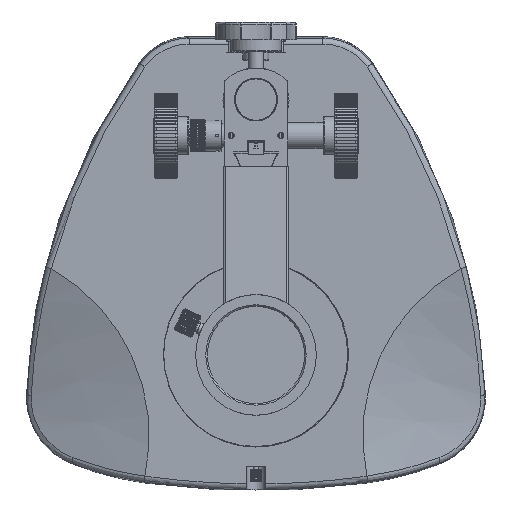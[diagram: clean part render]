
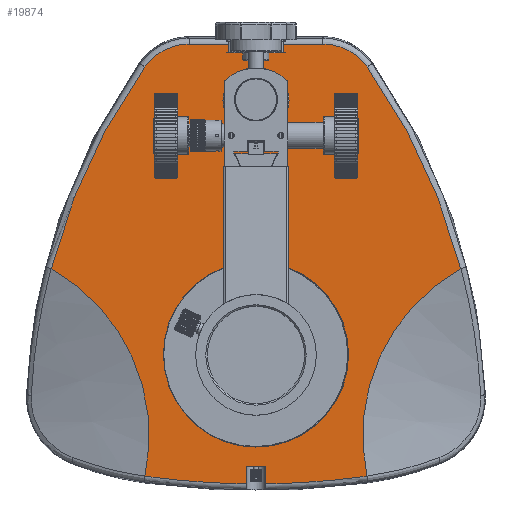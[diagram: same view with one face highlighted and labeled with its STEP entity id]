
A CAD part, top view. The second image highlights one B-rep face of the part: STEP entity #19874.
In plain terms, the highlighted planar face has unit normal (0, 0, 1).
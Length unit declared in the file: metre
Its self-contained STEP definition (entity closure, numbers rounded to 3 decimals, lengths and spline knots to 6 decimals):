
#19874=ADVANCED_FACE('103:3423',(#45202,#45203,#45204),#45205,.T.);
#19994=EDGE_CURVE('103:4329',#45398,#45395,#45399,.T.);
#20002=EDGE_CURVE('103:4317',#45407,#45395,#45410,.T.);
#20018=EDGE_CURVE('103:4338',#45422,#45429,#45432,.T.);
#20300=EDGE_CURVE('103:4296',#45839,#45839,#45840,.T.);
#20302=EDGE_CURVE('103:4323',#45842,#45398,#45843,.T.);
#20458=EDGE_CURVE('103:4008',#46055,#46058,#46059,.T.);
#20462=EDGE_CURVE('103:4002',#45842,#46063,#46064,.T.);
#20468=EDGE_CURVE('103:4332',#46070,#46071,#46072,.T.);
#20494=EDGE_CURVE('103:4269',#46104,#46105,#46106,.T.);
#20502=EDGE_CURVE('103:4335',#45429,#46113,#46116,.T.);
#20804=EDGE_CURVE('103:4005',#46063,#46055,#46508,.T.);
#20820=EDGE_CURVE('103:4326',#46071,#46058,#46526,.T.);
#20822=EDGE_CURVE('103:4320',#46070,#46113,#46528,.T.);
#20836=EDGE_CURVE('103:4344',#46540,#46543,#46546,.T.);
#20838=EDGE_CURVE('103:4257',#46105,#46104,#46548,.T.);
#20842=EDGE_CURVE('103:4347',#45407,#46540,#46553,.T.);
#20844=EDGE_CURVE('103:4341',#46543,#45422,#46555,.T.);
#45202=FACE_OUTER_BOUND('',#81412,.T.);
#45203=FACE_BOUND('',#81413,.T.);
#45204=FACE_BOUND('',#81414,.T.);
#45205=PLANE('',#81415);
#45395=VERTEX_POINT('',#81897);
#45398=VERTEX_POINT('',#81925);
#45399=B_SPLINE_CURVE_WITH_KNOTS('',3,(#81926,#81927,#81928,#81929),.UNSPECIFIED.,.F.,.F.,(4,4),(0.,0.000062),.UNSPECIFIED.);
#45407=VERTEX_POINT('',#81981);
#45410=CIRCLE('',#81988,0.098421);
#45422=VERTEX_POINT('',#82085);
#45429=VERTEX_POINT('',#82138);
#45432=B_SPLINE_CURVE_WITH_KNOTS('',3,(#82142,#82143,#82144,#82145,#82146,#82147,#82148,#82149,#82150,#82151,#82152,#82153,#82154,#82155,#82156,#82157,#82158,#82159),.UNSPECIFIED.,.F.,.F.,(4,2,2,2,2,2,2,2,4),(0.0,0.006658,0.008323,0.009987,0.013316,0.016646,0.01831,0.019975,0.026633),.UNSPECIFIED.);
#45839=VERTEX_POINT('',#83000);
#45840=CIRCLE('',#83001,0.0052);
#45842=VERTEX_POINT('',#83004);
#45843=CIRCLE('',#83005,0.411851);
#46055=VERTEX_POINT('',#83533);
#46058=VERTEX_POINT('',#83538);
#46059=LINE('',#83539,#83540);
#46063=VERTEX_POINT('',#83568);
#46064=LINE('',#83569,#83570);
#46070=VERTEX_POINT('',#83583);
#46071=VERTEX_POINT('',#83584);
#46072=B_SPLINE_CURVE_WITH_KNOTS('',3,(#83585,#83586,#83587,#83588),.UNSPECIFIED.,.F.,.F.,(4,4),(0.0,0.000062),.UNSPECIFIED.);
#46104=VERTEX_POINT('',#83785);
#46105=VERTEX_POINT('',#83786);
#46106=CIRCLE('',#83787,0.0476);
#46113=VERTEX_POINT('',#83841);
#46116=CIRCLE('',#83848,0.311125);
#46508=LINE('',#84521,#84522);
#46526=CIRCLE('',#84553,0.411851);
#46528=CIRCLE('',#84556,0.098421);
#46540=VERTEX_POINT('',#84646);
#46543=VERTEX_POINT('',#84650);
#46546=B_SPLINE_CURVE_WITH_KNOTS('',3,(#84654,#84655,#84656,#84657,#84658,#84659,#84660,#84661,#84662,#84663,#84664,#84665,#84666,#84667,#84668,#84669,#84670,#84671),.UNSPECIFIED.,.F.,.F.,(4,2,2,2,2,2,2,2,4),(0.0,0.006658,0.008323,0.009987,0.013317,0.016646,0.01831,0.019975,0.026633),.UNSPECIFIED.);
#46548=CIRCLE('',#84674,0.008251);
#46553=CIRCLE('',#84681,0.311125);
#46555=LINE('',#84684,#84685);
#81412=EDGE_LOOP('',(#140878,#140879,#140880,#140881,#140882,#140883,#140884,#140885,#140886,#140887,#140888,#140889,#140890,#140891));
#81413=EDGE_LOOP('',(#140892,#140893));
#81414=EDGE_LOOP('',(#140894));
#81415=AXIS2_PLACEMENT_3D('',#140895,#140896,#140897);
#81897=CARTESIAN_POINT('',(0.057082,-0.109261,0.031));
#81925=CARTESIAN_POINT('',(0.057093,-0.109322,0.031));
#81926=CARTESIAN_POINT('',(0.057093,-0.109322,0.031));
#81927=CARTESIAN_POINT('',(0.05709,-0.109301,0.031));
#81928=CARTESIAN_POINT('',(0.057087,-0.109281,0.031));
#81929=CARTESIAN_POINT('',(0.057082,-0.109261,0.031));
#81981=CARTESIAN_POINT('',(0.105187,-0.002708,0.031));
#81988=AXIS2_PLACEMENT_3D('',#141346,#141347,#141348);
#82085=CARTESIAN_POINT('',(-0.034352,0.112845,0.031));
#82138=CARTESIAN_POINT('',(-0.057258,0.101015,0.031));
#82142=CARTESIAN_POINT('',(-0.034352,0.112845,0.031));
#82143=CARTESIAN_POINT('',(-0.036603,0.112845,0.031));
#82144=CARTESIAN_POINT('',(-0.038809,0.112578,0.031));
#82145=CARTESIAN_POINT('',(-0.041512,0.111923,0.031));
#82146=CARTESIAN_POINT('',(-0.042049,0.111775,0.031));
#82147=CARTESIAN_POINT('',(-0.043119,0.111447,0.031));
#82148=CARTESIAN_POINT('',(-0.043653,0.111266,0.031));
#82149=CARTESIAN_POINT('',(-0.04523,0.110677,0.031));
#82150=CARTESIAN_POINT('',(-0.046248,0.110225,0.031));
#82151=CARTESIAN_POINT('',(-0.048221,0.109207,0.031));
#82152=CARTESIAN_POINT('',(-0.049176,0.10864,0.031));
#82153=CARTESIAN_POINT('',(-0.05056,0.107704,0.031));
#82154=CARTESIAN_POINT('',(-0.051013,0.107377,0.031));
#82155=CARTESIAN_POINT('',(-0.051903,0.106693,0.031));
#82156=CARTESIAN_POINT('',(-0.05234,0.106337,0.031));
#82157=CARTESIAN_POINT('',(-0.054455,0.104501,0.031));
#82158=CARTESIAN_POINT('',(-0.055954,0.10285,0.031));
#82159=CARTESIAN_POINT('',(-0.057258,0.101015,0.031));
#83000=CARTESIAN_POINT('',(0.0052,0.08375,0.031));
#83001=AXIS2_PLACEMENT_3D('',#141557,#141558,#141559);
#83004=CARTESIAN_POINT('',(0.004999,-0.113268,0.031));
#83005=AXIS2_PLACEMENT_3D('',#141560,#141561,#141562);
#83533=CARTESIAN_POINT('',(-0.005,-0.104298,0.031));
#83538=CARTESIAN_POINT('',(-0.005,-0.113268,0.031));
#83539=CARTESIAN_POINT('',(-0.005,-0.116298,0.031));
#83540=VECTOR('',#141675,1.0);
#83568=CARTESIAN_POINT('',(0.004999,-0.104298,0.031));
#83569=CARTESIAN_POINT('',(0.004999,-0.104298,0.031));
#83570=VECTOR('',#141676,1.0);
#83583=CARTESIAN_POINT('',(-0.057132,-0.109253,0.031));
#83584=CARTESIAN_POINT('',(-0.057143,-0.109314,0.031));
#83585=CARTESIAN_POINT('',(-0.057132,-0.109253,0.031));
#83586=CARTESIAN_POINT('',(-0.057137,-0.109274,0.031));
#83587=CARTESIAN_POINT('',(-0.05714,-0.109294,0.031));
#83588=CARTESIAN_POINT('',(-0.057143,-0.109314,0.031));
#83785=CARTESIAN_POINT('',(-0.008246,0.00013,0.031));
#83786=CARTESIAN_POINT('',(0.008246,0.00013,0.031));
#83787=AXIS2_PLACEMENT_3D('',#141684,#141685,#141686);
#83841=CARTESIAN_POINT('',(-0.105188,-0.002715,0.031));
#83848=AXIS2_PLACEMENT_3D('',#141687,#141688,#141689);
#84521=CARTESIAN_POINT('',(-0.005,-0.104298,0.031));
#84522=VECTOR('',#141899,1.0);
#84553=AXIS2_PLACEMENT_3D('',#141911,#141912,#141913);
#84556=AXIS2_PLACEMENT_3D('',#141914,#141915,#141916);
#84646=CARTESIAN_POINT('',(0.057258,0.101015,0.031));
#84650=CARTESIAN_POINT('',(0.034352,0.112845,0.031));
#84654=CARTESIAN_POINT('',(0.057258,0.101015,0.031));
#84655=CARTESIAN_POINT('',(0.055954,0.10285,0.031));
#84656=CARTESIAN_POINT('',(0.05446,0.104495,0.031));
#84657=CARTESIAN_POINT('',(0.052361,0.106319,0.031));
#84658=CARTESIAN_POINT('',(0.051929,0.106672,0.031));
#84659=CARTESIAN_POINT('',(0.051043,0.107355,0.031));
#84660=CARTESIAN_POINT('',(0.050586,0.107685,0.031));
#84661=CARTESIAN_POINT('',(0.049193,0.10863,0.031));
#84662=CARTESIAN_POINT('',(0.048235,0.109199,0.031));
#84663=CARTESIAN_POINT('',(0.046263,0.110219,0.031));
#84664=CARTESIAN_POINT('',(0.045248,0.110669,0.031));
#84665=CARTESIAN_POINT('',(0.043683,0.111255,0.031));
#84666=CARTESIAN_POINT('',(0.043154,0.111436,0.031));
#84667=CARTESIAN_POINT('',(0.042082,0.111766,0.031));
#84668=CARTESIAN_POINT('',(0.041538,0.111916,0.031));
#84669=CARTESIAN_POINT('',(0.038817,0.112578,0.031));
#84670=CARTESIAN_POINT('',(0.036603,0.112845,0.031));
#84671=CARTESIAN_POINT('',(0.034352,0.112845,0.031));
#84674=AXIS2_PLACEMENT_3D('',#141926,#141927,#141928);
#84681=AXIS2_PLACEMENT_3D('',#141932,#141933,#141934);
#84684=CARTESIAN_POINT('',(0.0,0.112845,0.031));
#84685=VECTOR('',#141935,1.0);
#140878=ORIENTED_EDGE('',*,*,#20462,.F.);
#140879=ORIENTED_EDGE('',*,*,#20302,.T.);
#140880=ORIENTED_EDGE('',*,*,#19994,.T.);
#140881=ORIENTED_EDGE('',*,*,#20002,.F.);
#140882=ORIENTED_EDGE('',*,*,#20842,.T.);
#140883=ORIENTED_EDGE('',*,*,#20836,.T.);
#140884=ORIENTED_EDGE('',*,*,#20844,.T.);
#140885=ORIENTED_EDGE('',*,*,#20018,.T.);
#140886=ORIENTED_EDGE('',*,*,#20502,.T.);
#140887=ORIENTED_EDGE('',*,*,#20822,.F.);
#140888=ORIENTED_EDGE('',*,*,#20468,.T.);
#140889=ORIENTED_EDGE('',*,*,#20820,.T.);
#140890=ORIENTED_EDGE('',*,*,#20458,.F.);
#140891=ORIENTED_EDGE('',*,*,#20804,.F.);
#140892=ORIENTED_EDGE('',*,*,#20838,.F.);
#140893=ORIENTED_EDGE('',*,*,#20494,.F.);
#140894=ORIENTED_EDGE('',*,*,#20300,.F.);
#140895=CARTESIAN_POINT('',(0.0,0.0,0.031));
#140896=DIRECTION('',(0.0,0.0,1.0));
#140897=DIRECTION('',(1.0,0.0,0.0));
#141346=CARTESIAN_POINT('',(0.153303,-0.088566,0.031));
#141347=DIRECTION('',(0.0,-0.0,1.0));
#141348=DIRECTION('',(1.0,0.0,-0.0));
#141557=CARTESIAN_POINT('',(0.,0.08375,0.031));
#141558=DIRECTION('',(0.0,0.0,1.0));
#141559=DIRECTION('',(1.0,0.0,-0.0));
#141560=CARTESIAN_POINT('',(0.0,0.298553,0.031));
#141561=DIRECTION('',(0.0,0.0,1.0));
#141562=DIRECTION('',(1.0,0.0,-0.0));
#141675=DIRECTION('',(0.,-1.0,-0.0));
#141676=DIRECTION('',(-0.0,1.0,-0.0));
#141684=CARTESIAN_POINT('',(0.,-0.04675,0.031));
#141685=DIRECTION('',(0.0,0.0,1.0));
#141686=DIRECTION('',(1.0,0.0,-0.0));
#141687=CARTESIAN_POINT('',(0.196406,-0.079134,0.031));
#141688=DIRECTION('',(0.0,0.0,1.0));
#141689=DIRECTION('',(1.0,0.0,-0.0));
#141899=DIRECTION('',(-1.0,-0.0,-0.0));
#141911=CARTESIAN_POINT('',(0.0,0.298553,0.031));
#141912=DIRECTION('',(0.0,0.0,1.0));
#141913=DIRECTION('',(1.0,0.0,-0.0));
#141914=CARTESIAN_POINT('',(-0.15335,-0.088547,0.031));
#141915=DIRECTION('',(0.0,-0.0,1.0));
#141916=DIRECTION('',(1.0,0.0,-0.0));
#141926=CARTESIAN_POINT('',(0.,-0.00015,0.031));
#141927=DIRECTION('',(0.0,0.0,1.0));
#141928=DIRECTION('',(1.0,0.0,-0.0));
#141932=CARTESIAN_POINT('',(-0.196406,-0.079134,0.031));
#141933=DIRECTION('',(0.0,0.0,1.0));
#141934=DIRECTION('',(1.0,0.0,-0.0));
#141935=DIRECTION('',(-1.0,0.0,0.0));
